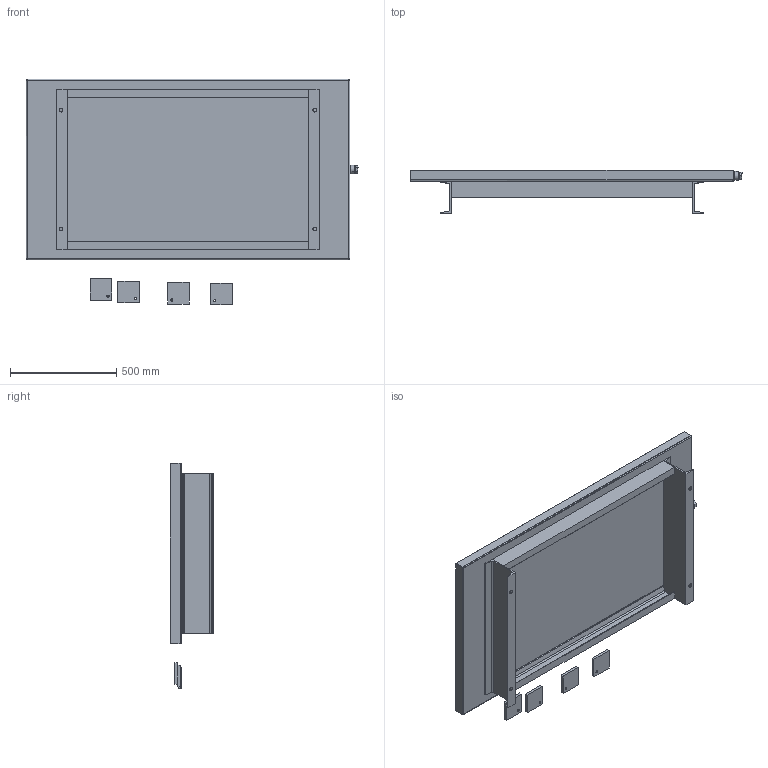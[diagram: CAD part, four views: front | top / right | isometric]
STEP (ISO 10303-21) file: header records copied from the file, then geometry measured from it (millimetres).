
FILE_DESCRIPTION (( 'STEP AP214' ), '1' );
FILE_NAME ('TDP-60.STEP', '2026-04-22T11:03:53', ( '' ), ( '' ), 'SwSTEP 2.0', 'SolidWorks 2026', '' );
FILE_SCHEMA (( 'AUTOMOTIVE_DESIGN' ));
Length unit declared in the file: inch
Products named in the file (7): TDP-60; C3-TDP-60_Default<As Welded>; TDP-PAD; #12 SAE PLUG; #12 SAE DRAIN; C6-TDP-60_Default<As Welded>
Assembly tree (11 placements, depth 2):
  TDP-60
    TDP-60
    #12 SAE DRAIN
    C6-TDP-60_Default<As Welded>  x2
    C3-TDP-60_Default<As Welded>  x2
    #12 SAE PLUG
    TDP-PAD  x4
Bounding box: 1562.1 x 203.2 x 1062.29 mm (x, y, z)
Volume: 10400786.7 mm3; surface area: 4506034 mm2
Topology: 11 solids, 11 shells, 163 faces, 378 edges, 240 vertices
Faces by surface type: plane 99, cylinder 50, bspline 8, cone 6
Entity records: 3752 total; most frequent: CARTESIAN_POINT 1105, DIRECTION 498, ORIENTED_EDGE 480, EDGE_CURVE 240, VECTOR 168, LINE 168, AXIS2_PLACEMENT_3D 165, VERTEX_POINT 148
